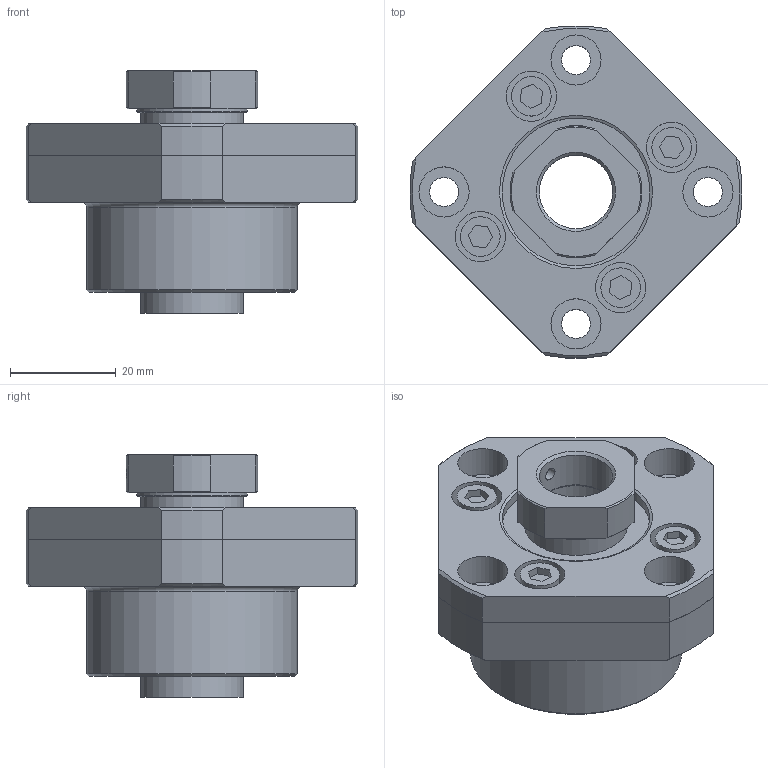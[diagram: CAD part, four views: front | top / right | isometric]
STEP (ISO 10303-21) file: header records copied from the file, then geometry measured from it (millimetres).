
FILE_DESCRIPTION(/* description */ ('STEP AP214'),/* implementation_level */ '2;1');
FILE_NAME(/* name */ 'FK15______CAD_NO_Yes-FS',/* time_stamp */ '2026-09-17T13:35:59+02:00',/* author */ ('License CC BY-ND 4.0'),/* organization */ ('CADENAS'),/* preprocessor_version */ 'ST-DEVELOPER v20',/* originating_system */ 'PARTsolutions',/* authorisation */ ' ');
FILE_SCHEMA (('AUTOMOTIVE_DESIGN {1 0 10303 214 3 1 1}'));
Length unit declared in the file: millimetre
Products named in the file (4): FK15______CAD_NO_Yes-FS; FK 15-FS-1; FK 15collar; RN 15
Assembly tree (4 placements, depth 2):
  FK15______CAD_NO_Yes-FS
    FK 15-FS-1
    FK 15collar  x2
    RN 15
Bounding box: 62.88 x 62.88 x 46 mm (x, y, z)
Volume: 52985.5 mm3; surface area: 17932.2 mm2
Topology: 4 solids, 4 shells, 155 faces, 349 edges, 231 vertices
Faces by surface type: plane 83, cylinder 48, cone 23, torus 1
Full cylindrical faces by diameter (mm): 2.459 x1, 3 x1, 5.5 x4, 7.5 x4, 9.5 x8, 13.917 x1, 15 x3, 19.5 x4, 21 x1, 28 x2, 30.8 x1, 30.84 x1, 40 x1
Entity records: 4219 total; most frequent: CARTESIAN_POINT 798, DIRECTION 694, ORIENTED_EDGE 604, EDGE_CURVE 302, AXIS2_PLACEMENT_3D 270, EDGE_LOOP 232, FACE_BOUND 232, VERTEX_POINT 224
